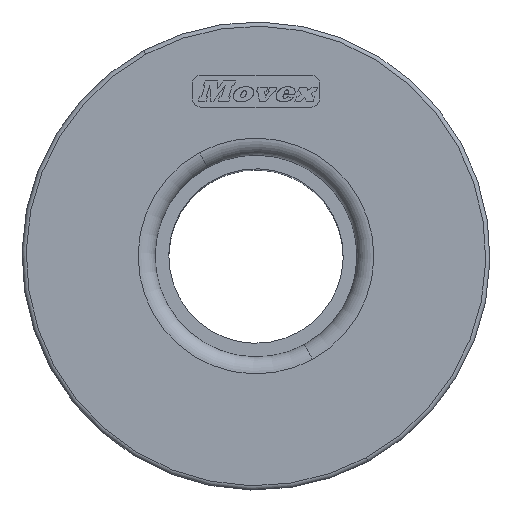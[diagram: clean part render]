
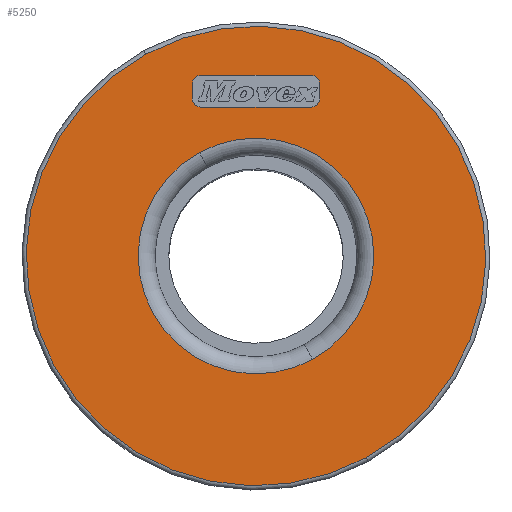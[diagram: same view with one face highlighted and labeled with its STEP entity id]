
A CAD part, top view. The second image highlights one B-rep face of the part: STEP entity #5250.
In plain terms, the highlighted planar face has unit normal (0, 0, 1).
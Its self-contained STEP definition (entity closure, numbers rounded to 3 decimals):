
#2522=EDGE_CURVE('',#7431,#7432,#7433,.T.);
#3214=EDGE_CURVE('',#8641,#8642,#8643,.F.);
#3382=EDGE_CURVE('',#8487,#7745,#8921,.T.);
#4238=EDGE_CURVE('',#8642,#10203,#10204,.T.);
#4286=EDGE_CURVE('',#10203,#8487,#10275,.T.);
#4398=EDGE_CURVE('',#10424,#10425,#10426,.T.);
#4494=EDGE_CURVE('',#7745,#10424,#10557,.F.);
#4920=EDGE_CURVE('',#7432,#7431,#11129,.T.);
#5250=ADVANCED_FACE('',(#11563,#11564,#11565),#11566,.T.);
#5370=EDGE_CURVE('',#8357,#8641,#11720,.T.);
#6278=EDGE_CURVE('',#12320,#9946,#12817,.T.);
#6600=EDGE_CURVE('',#10425,#8357,#13190,.F.);
#6632=EDGE_CURVE('',#9946,#12320,#13226,.T.);
#7431=VERTEX_POINT('',#14171);
#7432=VERTEX_POINT('',#14172);
#7433=CIRCLE('',#14173,13.85);
#7745=VERTEX_POINT('',#14600);
#8357=VERTEX_POINT('',#15446);
#8487=VERTEX_POINT('',#15628);
#8641=VERTEX_POINT('',#15841);
#8642=VERTEX_POINT('',#15842);
#8643=LINE('',#15843,#15844);
#8921=CIRCLE('',#16260,1.0);
#9946=VERTEX_POINT('',#17718);
#10203=VERTEX_POINT('',#18086);
#10204=CIRCLE('',#18087,1.0);
#10275=LINE('',#18195,#18196);
#10424=VERTEX_POINT('',#18414);
#10425=VERTEX_POINT('',#18415);
#10426=CIRCLE('',#18416,1.0);
#10557=LINE('',#18600,#18601);
#11129=CIRCLE('',#19468,13.85);
#11563=FACE_OUTER_BOUND('',#20123,.T.);
#11564=FACE_BOUND('',#20124,.T.);
#11565=FACE_BOUND('',#20125,.T.);
#11566=PLANE('',#20126);
#11720=CIRCLE('',#20367,1.0);
#12320=VERTEX_POINT('',#21291);
#12817=CIRCLE('',#22053,27.0);
#13190=LINE('',#22630,#22631);
#13226=CIRCLE('',#22689,27.0);
#14171=CARTESIAN_POINT('',(6.64,-12.155,44.25));
#14172=CARTESIAN_POINT('',(-6.64,12.155,44.25));
#14173=AXIS2_PLACEMENT_3D('',#23954,#23955,#23956);
#14600=CARTESIAN_POINT('',(7.484,18.5,44.25));
#15446=CARTESIAN_POINT('',(-6.484,21.242,44.25));
#15628=CARTESIAN_POINT('',(6.484,17.5,44.25));
#15841=CARTESIAN_POINT('',(-7.484,20.242,44.25));
#15842=CARTESIAN_POINT('',(-7.484,18.5,44.25));
#15843=CARTESIAN_POINT('',(-7.484,19.371,44.25));
#15844=VECTOR('',#25241,1.0);
#16260=AXIS2_PLACEMENT_3D('',#25479,#25480,#25481);
#17718=CARTESIAN_POINT('',(12.944,-23.695,44.25));
#18086=CARTESIAN_POINT('',(-6.484,17.5,44.25));
#18087=AXIS2_PLACEMENT_3D('',#27353,#27354,#27355);
#18195=CARTESIAN_POINT('',(0.0,17.5,44.25));
#18196=VECTOR('',#27413,1.0);
#18414=CARTESIAN_POINT('',(7.484,20.242,44.25));
#18415=CARTESIAN_POINT('',(6.484,21.242,44.25));
#18416=AXIS2_PLACEMENT_3D('',#27596,#27597,#27598);
#18600=CARTESIAN_POINT('',(7.484,19.371,44.25));
#18601=VECTOR('',#27784,1.0);
#19468=AXIS2_PLACEMENT_3D('',#28648,#28649,#28650);
#20123=EDGE_LOOP('',(#29167,#29168));
#20124=EDGE_LOOP('',(#29169,#29170));
#20125=EDGE_LOOP('',(#29171,#29172,#29173,#29174,#29175,#29176,#29177,#29178));
#20126=AXIS2_PLACEMENT_3D('',#29179,#29180,#29181);
#20367=AXIS2_PLACEMENT_3D('',#29346,#29347,#29348);
#21291=CARTESIAN_POINT('',(-12.944,23.695,44.25));
#22053=AXIS2_PLACEMENT_3D('',#30877,#30878,#30879);
#22630=CARTESIAN_POINT('',(0.0,21.242,44.25));
#22631=VECTOR('',#31428,1.0);
#22689=AXIS2_PLACEMENT_3D('',#31477,#31478,#31479);
#23954=CARTESIAN_POINT('',(0.0,0.0,44.25));
#23955=DIRECTION('',(0.0,0.0,1.0));
#23956=DIRECTION('',(1.0,0.0,0.0));
#25241=DIRECTION('',(0.0,1.0,0.0));
#25479=CARTESIAN_POINT('',(6.484,18.5,44.25));
#25480=DIRECTION('',(0.0,0.0,1.0));
#25481=DIRECTION('',(1.0,0.0,0.0));
#27353=CARTESIAN_POINT('',(-6.484,18.5,44.25));
#27354=DIRECTION('',(0.0,0.0,1.0));
#27355=DIRECTION('',(1.0,0.0,0.0));
#27413=DIRECTION('',(1.0,0.0,0.0));
#27596=CARTESIAN_POINT('',(6.484,20.242,44.25));
#27597=DIRECTION('',(0.0,0.0,1.0));
#27598=DIRECTION('',(1.0,0.0,0.0));
#27784=DIRECTION('',(0.,-1.0,0.0));
#28648=CARTESIAN_POINT('',(0.0,0.0,44.25));
#28649=DIRECTION('',(0.0,0.0,1.0));
#28650=DIRECTION('',(1.0,0.0,0.0));
#29167=ORIENTED_EDGE('',*,*,#6278,.T.);
#29168=ORIENTED_EDGE('',*,*,#6632,.T.);
#29169=ORIENTED_EDGE('',*,*,#2522,.F.);
#29170=ORIENTED_EDGE('',*,*,#4920,.F.);
#29171=ORIENTED_EDGE('',*,*,#3382,.F.);
#29172=ORIENTED_EDGE('',*,*,#4286,.F.);
#29173=ORIENTED_EDGE('',*,*,#4238,.F.);
#29174=ORIENTED_EDGE('',*,*,#3214,.F.);
#29175=ORIENTED_EDGE('',*,*,#5370,.F.);
#29176=ORIENTED_EDGE('',*,*,#6600,.F.);
#29177=ORIENTED_EDGE('',*,*,#4398,.F.);
#29178=ORIENTED_EDGE('',*,*,#4494,.F.);
#29179=CARTESIAN_POINT('',(0.0,-13.85,44.25));
#29180=DIRECTION('',(0.0,0.0,1.0));
#29181=DIRECTION('',(1.0,0.0,0.0));
#29346=CARTESIAN_POINT('',(-6.484,20.242,44.25));
#29347=DIRECTION('',(0.0,0.0,1.0));
#29348=DIRECTION('',(1.0,0.0,0.0));
#30877=CARTESIAN_POINT('',(0.0,0.0,44.25));
#30878=DIRECTION('',(0.0,0.0,1.0));
#30879=DIRECTION('',(1.0,0.0,0.0));
#31428=DIRECTION('',(1.0,0.0,0.0));
#31477=CARTESIAN_POINT('',(0.0,0.0,44.25));
#31478=DIRECTION('',(0.0,0.0,1.0));
#31479=DIRECTION('',(1.0,0.0,0.0));
